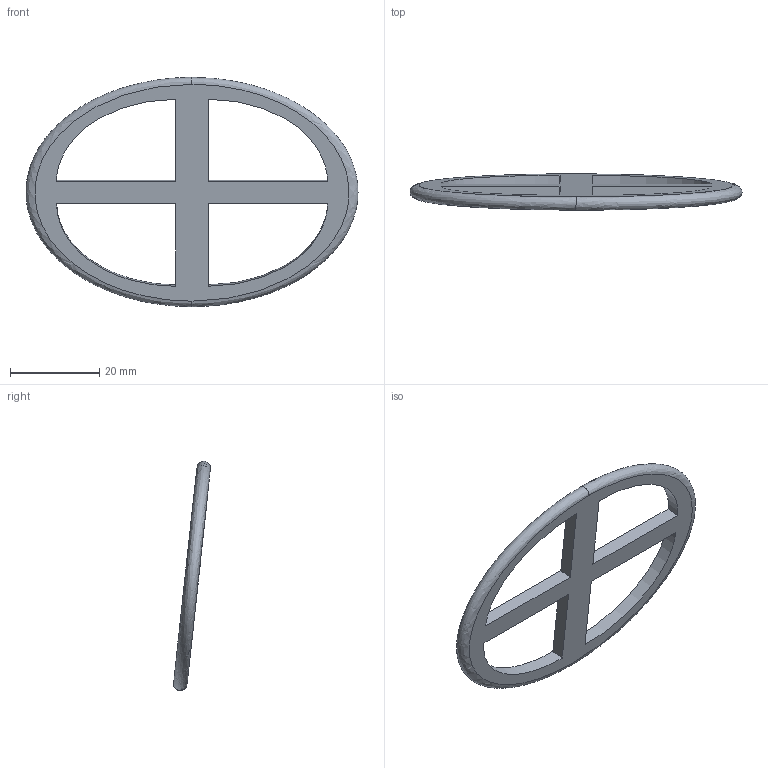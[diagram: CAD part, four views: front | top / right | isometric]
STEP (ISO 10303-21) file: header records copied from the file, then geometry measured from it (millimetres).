
FILE_DESCRIPTION(/* description */ (''),/* implementation_level */ '2;1');
FILE_NAME(/* name */ 'S-WIDE~1',/* time_stamp */ '2020-04-10T21:30:06+03:00',/* author */ (''),/* organization */ (''),/* preprocessor_version */ 'ST-DEVELOPER v16.5',/* originating_system */ '',/* authorisation */ '');
FILE_SCHEMA (('AUTOMOTIVE_DESIGN'));
Length unit declared in the file: millimetre
Products named in the file (1): Document
Bounding box: 74.31 x 8.23 x 51.3 mm (x, y, z)
Volume: 4154.5 mm3; surface area: 4210.1 mm2
Topology: 1 solids, 1 shells, 18 faces, 46 edges, 30 vertices
Faces by surface type: plane 10, bspline 8
Entity records: 1332 total; most frequent: CARTESIAN_POINT 1006, ORIENTED_EDGE 92, EDGE_CURVE 46, VERTEX_POINT 30, EDGE_LOOP 26, B_SPLINE_CURVE_WITH_KNOTS 24, ADVANCED_FACE 18, FACE_OUTER_BOUND 18
